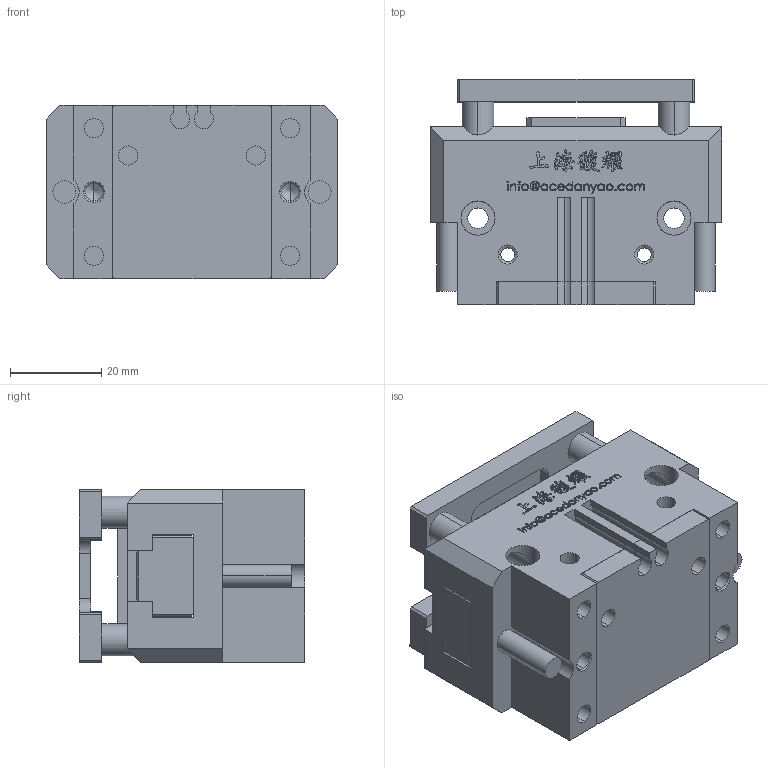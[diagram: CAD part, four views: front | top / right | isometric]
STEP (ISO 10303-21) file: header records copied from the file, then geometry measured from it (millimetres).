
FILE_DESCRIPTION (( 'STEP AP203' ), '1' );
FILE_NAME ('OPP2-64-C2-P-原始檔-組合-W106.04.18.STEP', '2017-04-18T08:49:21', ( 'DanyaoCAD' ), ( '' ), 'SwSTEP 2.0', 'SolidWorks 2016', '' );
FILE_SCHEMA (( 'CONFIG_CONTROL_DESIGN' ));
Length unit declared in the file: millimetre
Products named in the file (6): Griffa; Fondello; Coperchio; OPP2-64-C2-P-原始檔-組合-W106.04.18; Corpo; Piattello
Assembly tree (6 placements, depth 2):
  OPP2-64-C2-P-原始檔-組合-W106.04.18
    Corpo
    Piattello
    Griffa  x2
    Fondello
    Coperchio
Bounding box: 64 x 49.5 x 38 mm (x, y, z)
Volume: 83683.7 mm3; surface area: 35001.6 mm2
Topology: 6 solids, 6 shells, 1129 faces, 3149 edges, 2068 vertices
Faces by surface type: bspline 640, plane 320, cylinder 119, cone 50
Entity records: 51767 total; most frequent: CARTESIAN_POINT 27564, ORIENTED_EDGE 6038, EDGE_CURVE 3019, DIRECTION 2837, VERTEX_POINT 1994, LINE 1455, VECTOR 1455, B_SPLINE_CURVE_WITH_KNOTS 1302
